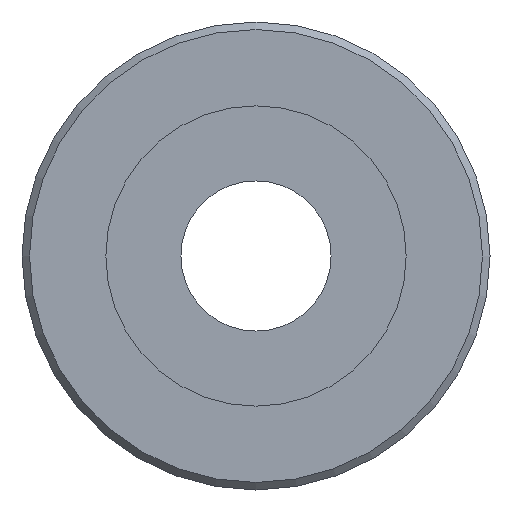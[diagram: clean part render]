
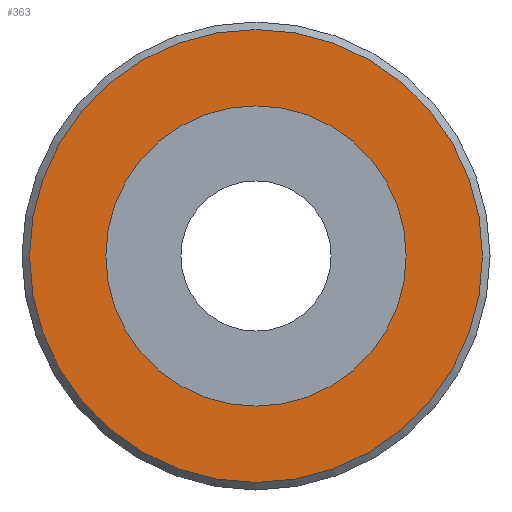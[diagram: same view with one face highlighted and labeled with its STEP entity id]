
A CAD part, front view. The second image highlights one B-rep face of the part: STEP entity #363.
In plain terms, the highlighted planar face has unit normal (0, -1, 0).
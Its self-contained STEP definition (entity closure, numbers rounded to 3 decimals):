
#29=FACE_BOUND('',#76,.T.);
#38=PLANE('',#416);
#48=FACE_OUTER_BOUND('',#75,.T.);
#75=EDGE_LOOP('',(#263));
#76=EDGE_LOOP('',(#264));
#144=CIRCLE('',#415,9.05);
#145=CIRCLE('',#417,6.);
#178=VERTEX_POINT('',#619);
#179=VERTEX_POINT('',#623);
#211=EDGE_CURVE('',#178,#178,#144,.T.);
#212=EDGE_CURVE('',#179,#179,#145,.T.);
#263=ORIENTED_EDGE('',*,*,#211,.F.);
#264=ORIENTED_EDGE('',*,*,#212,.T.);
#363=ADVANCED_FACE('',(#48,#29),#38,.T.);
#415=AXIS2_PLACEMENT_3D('',#621,#482,#483);
#416=AXIS2_PLACEMENT_3D('',#622,#484,#485);
#417=AXIS2_PLACEMENT_3D('',#624,#486,#487);
#482=DIRECTION('center_axis',(0.,1.,0.));
#483=DIRECTION('ref_axis',(0.,0.,-1.));
#484=DIRECTION('center_axis',(0.,-1.,0.));
#485=DIRECTION('ref_axis',(0.,0.,-1.));
#486=DIRECTION('center_axis',(0.,1.,0.));
#487=DIRECTION('ref_axis',(1.,0.,0.));
#619=CARTESIAN_POINT('',(0.,-20.5,9.05));
#621=CARTESIAN_POINT('Origin',(0.,-20.5,0.));
#622=CARTESIAN_POINT('Origin',(0.,-20.5,9.35));
#623=CARTESIAN_POINT('',(-6.,-20.5,0.));
#624=CARTESIAN_POINT('Origin',(0.,-20.5,0.));
